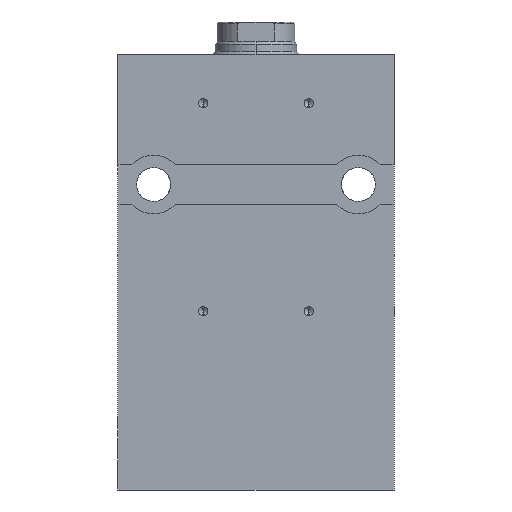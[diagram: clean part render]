
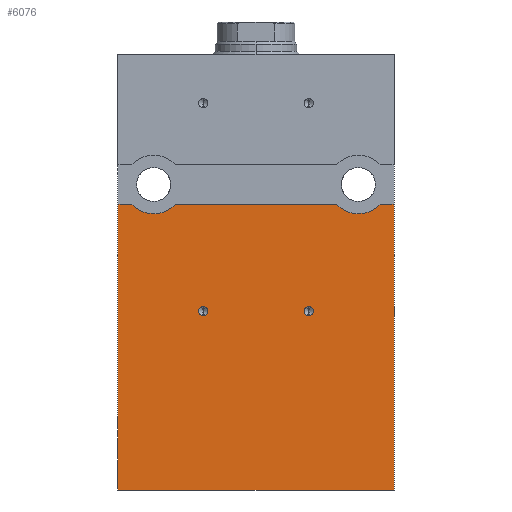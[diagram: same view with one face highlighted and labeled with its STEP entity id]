
A CAD part, left-side view. The second image highlights one B-rep face of the part: STEP entity #6076.
In plain terms, the highlighted planar face has unit normal (-1, 0, 0).
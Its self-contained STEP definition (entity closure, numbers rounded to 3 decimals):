
#34 = DIRECTION ( 'NONE',  ( 0., 0., -1. ) ) ;
#142 = DIRECTION ( 'NONE',  ( -1., 0., 0. ) ) ;
#194 = DIRECTION ( 'NONE',  ( 0., 0., 1. ) ) ;
#215 = CARTESIAN_POINT ( 'NONE',  ( -31.5, -42.5, -56. ) ) ;
#259 = CIRCLE ( 'NONE', #483, 9. ) ;
#344 = CARTESIAN_POINT ( 'NONE',  ( -31.5, -38.208, -56. ) ) ;
#420 = VERTEX_POINT ( 'NONE', #2738 ) ;
#454 = EDGE_CURVE ( 'NONE', #1167, #2212, #728, .T. ) ;
#465 = CARTESIAN_POINT ( 'NONE',  ( -31.5, 16.2, -90.425 ) ) ;
#483 = AXIS2_PLACEMENT_3D ( 'NONE', #3636, #992, #1991 ) ;
#562 = CARTESIAN_POINT ( 'NONE',  ( -31.5, 31.5, -50. ) ) ;
#610 = EDGE_CURVE ( 'NONE', #6420, #6327, #6734, .T. ) ;
#654 = EDGE_CURVE ( 'NONE', #2212, #1148, #5050, .T. ) ;
#728 = LINE ( 'NONE', #2801, #4463 ) ;
#748 = DIRECTION ( 'NONE',  ( 0., 0., 1. ) ) ;
#795 = DIRECTION ( 'NONE',  ( -1., 0., 0. ) ) ;
#819 = EDGE_CURVE ( 'NONE', #1939, #5502, #259, .T. ) ;
#829 = DIRECTION ( 'NONE',  ( 0., 0., 1. ) ) ;
#904 = AXIS2_PLACEMENT_3D ( 'NONE', #5053, #795, #5549 ) ;
#992 = DIRECTION ( 'NONE',  ( 1., 0., 0. ) ) ;
#1044 = EDGE_LOOP ( 'NONE', ( #6554, #3658, #6191, #1405, #6105, #6199, #3106, #1676 ) ) ;
#1148 = VERTEX_POINT ( 'NONE', #5144 ) ;
#1155 = CARTESIAN_POINT ( 'NONE',  ( -31.5, 16.2, -89. ) ) ;
#1167 = VERTEX_POINT ( 'NONE', #4724 ) ;
#1215 = EDGE_CURVE ( 'NONE', #6123, #5879, #6138, .T. ) ;
#1405 = ORIENTED_EDGE ( 'NONE', *, *, #1683, .T. ) ;
#1475 = VERTEX_POINT ( 'NONE', #4996 ) ;
#1616 = DIRECTION ( 'NONE',  ( 0., 0., 1. ) ) ;
#1634 = EDGE_LOOP ( 'NONE', ( #4341, #6587 ) ) ;
#1639 = CARTESIAN_POINT ( 'NONE',  ( -31.5, 42.5, -56. ) ) ;
#1676 = ORIENTED_EDGE ( 'NONE', *, *, #610, .T. ) ;
#1682 = CIRCLE ( 'NONE', #5004, 1.425 ) ;
#1683 = EDGE_CURVE ( 'NONE', #420, #1148, #3056, .T. ) ;
#1894 = CARTESIAN_POINT ( 'NONE',  ( -31.5, 42.5, -56. ) ) ;
#1924 = CARTESIAN_POINT ( 'NONE',  ( -31.5, 42.5, -56. ) ) ;
#1939 = VERTEX_POINT ( 'NONE', #344 ) ;
#1991 = DIRECTION ( 'NONE',  ( 0., 0., -1. ) ) ;
#2212 = VERTEX_POINT ( 'NONE', #6071 ) ;
#2355 = AXIS2_PLACEMENT_3D ( 'NONE', #4047, #4627, #6759 ) ;
#2430 = CARTESIAN_POINT ( 'NONE',  ( -31.5, 42.5, -144. ) ) ;
#2664 = DIRECTION ( 'NONE',  ( -1., 0., 0. ) ) ;
#2681 = DIRECTION ( 'NONE',  ( 1., 0., 0. ) ) ;
#2724 = DIRECTION ( 'NONE',  ( 0., -1., 0. ) ) ;
#2738 = CARTESIAN_POINT ( 'NONE',  ( -31.5, 24.792, -56. ) ) ;
#2801 = CARTESIAN_POINT ( 'NONE',  ( -31.5, 42.5, -144. ) ) ;
#2873 = CARTESIAN_POINT ( 'NONE',  ( -31.5, -24.792, -56. ) ) ;
#2882 = AXIS2_PLACEMENT_3D ( 'NONE', #3671, #2664, #1616 ) ;
#3056 = CIRCLE ( 'NONE', #5612, 9. ) ;
#3106 = ORIENTED_EDGE ( 'NONE', *, *, #3300, .T. ) ;
#3300 = EDGE_CURVE ( 'NONE', #1167, #6420, #5591, .T. ) ;
#3372 = VECTOR ( 'NONE', #829, 1000. ) ;
#3439 = DIRECTION ( 'NONE',  ( 0., -1., 0. ) ) ;
#3462 = VECTOR ( 'NONE', #5111, 1000. ) ;
#3534 = CARTESIAN_POINT ( 'NONE',  ( -31.5, -42.5, -144. ) ) ;
#3574 = VECTOR ( 'NONE', #2724, 1000. ) ;
#3630 = CARTESIAN_POINT ( 'NONE',  ( -31.5, -16.2, -90.425 ) ) ;
#3631 = FACE_BOUND ( 'NONE', #4854, .T. ) ;
#3636 = CARTESIAN_POINT ( 'NONE',  ( -31.5, -31.5, -50. ) ) ;
#3658 = ORIENTED_EDGE ( 'NONE', *, *, #819, .T. ) ;
#3671 = CARTESIAN_POINT ( 'NONE',  ( -31.5, 16.2, -89. ) ) ;
#3891 = CIRCLE ( 'NONE', #904, 1.425 ) ;
#4047 = CARTESIAN_POINT ( 'NONE',  ( -31.5, 42.5, -144. ) ) ;
#4143 = FACE_OUTER_BOUND ( 'NONE', #1044, .T. ) ;
#4341 = ORIENTED_EDGE ( 'NONE', *, *, #4520, .F. ) ;
#4463 = VECTOR ( 'NONE', #194, 1000. ) ;
#4520 = EDGE_CURVE ( 'NONE', #5879, #6123, #5430, .T. ) ;
#4627 = DIRECTION ( 'NONE',  ( -1., 0., 0. ) ) ;
#4659 = LINE ( 'NONE', #1924, #3462 ) ;
#4724 = CARTESIAN_POINT ( 'NONE',  ( -31.5, 42.5, -144. ) ) ;
#4782 = VERTEX_POINT ( 'NONE', #3630 ) ;
#4854 = EDGE_LOOP ( 'NONE', ( #6857, #5224 ) ) ;
#4908 = VECTOR ( 'NONE', #6636, 1000. ) ;
#4996 = CARTESIAN_POINT ( 'NONE',  ( -31.5, -16.2, -87.575 ) ) ;
#5004 = AXIS2_PLACEMENT_3D ( 'NONE', #5498, #142, #748 ) ;
#5050 = LINE ( 'NONE', #1894, #4908 ) ;
#5053 = CARTESIAN_POINT ( 'NONE',  ( -31.5, -16.2, -89. ) ) ;
#5111 = DIRECTION ( 'NONE',  ( 0., -1., 0. ) ) ;
#5124 = AXIS2_PLACEMENT_3D ( 'NONE', #1155, #6377, #5989 ) ;
#5144 = CARTESIAN_POINT ( 'NONE',  ( -31.5, 38.208, -56. ) ) ;
#5147 = FACE_BOUND ( 'NONE', #1634, .T. ) ;
#5224 = ORIENTED_EDGE ( 'NONE', *, *, #5481, .F. ) ;
#5283 = LINE ( 'NONE', #1639, #3574 ) ;
#5430 = CIRCLE ( 'NONE', #2882, 1.425 ) ;
#5481 = EDGE_CURVE ( 'NONE', #4782, #1475, #3891, .T. ) ;
#5498 = CARTESIAN_POINT ( 'NONE',  ( -31.5, -16.2, -89. ) ) ;
#5502 = VERTEX_POINT ( 'NONE', #2873 ) ;
#5532 = CARTESIAN_POINT ( 'NONE',  ( -31.5, -42.5, -144. ) ) ;
#5549 = DIRECTION ( 'NONE',  ( 0., 0., 1. ) ) ;
#5591 = LINE ( 'NONE', #2430, #5841 ) ;
#5612 = AXIS2_PLACEMENT_3D ( 'NONE', #562, #2681, #34 ) ;
#5747 = PLANE ( 'NONE',  #2355 ) ;
#5841 = VECTOR ( 'NONE', #3439, 1000. ) ;
#5879 = VERTEX_POINT ( 'NONE', #6103 ) ;
#5989 = DIRECTION ( 'NONE',  ( 0., 0., 1. ) ) ;
#6019 = EDGE_CURVE ( 'NONE', #420, #5502, #4659, .T. ) ;
#6071 = CARTESIAN_POINT ( 'NONE',  ( -31.5, 42.5, -56. ) ) ;
#6076 = ADVANCED_FACE ( 'NONE', ( #3631, #5147, #4143 ), #5747, .T. ) ;
#6103 = CARTESIAN_POINT ( 'NONE',  ( -31.5, 16.2, -87.575 ) ) ;
#6105 = ORIENTED_EDGE ( 'NONE', *, *, #654, .F. ) ;
#6123 = VERTEX_POINT ( 'NONE', #465 ) ;
#6138 = CIRCLE ( 'NONE', #5124, 1.425 ) ;
#6154 = EDGE_CURVE ( 'NONE', #1939, #6327, #5283, .T. ) ;
#6191 = ORIENTED_EDGE ( 'NONE', *, *, #6019, .F. ) ;
#6199 = ORIENTED_EDGE ( 'NONE', *, *, #454, .F. ) ;
#6327 = VERTEX_POINT ( 'NONE', #215 ) ;
#6377 = DIRECTION ( 'NONE',  ( -1., 0., 0. ) ) ;
#6420 = VERTEX_POINT ( 'NONE', #5532 ) ;
#6453 = EDGE_CURVE ( 'NONE', #1475, #4782, #1682, .T. ) ;
#6554 = ORIENTED_EDGE ( 'NONE', *, *, #6154, .F. ) ;
#6587 = ORIENTED_EDGE ( 'NONE', *, *, #1215, .F. ) ;
#6636 = DIRECTION ( 'NONE',  ( 0., -1., 0. ) ) ;
#6734 = LINE ( 'NONE', #3534, #3372 ) ;
#6759 = DIRECTION ( 'NONE',  ( 0., 0., 1. ) ) ;
#6857 = ORIENTED_EDGE ( 'NONE', *, *, #6453, .F. ) ;
